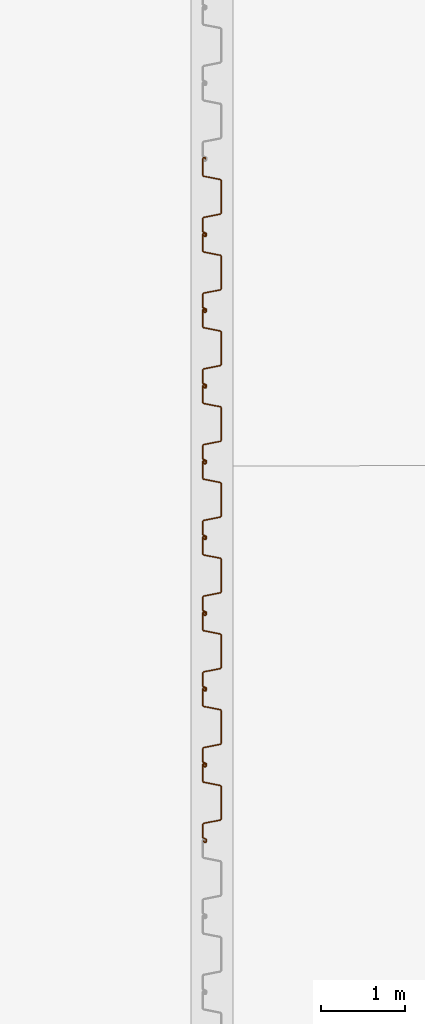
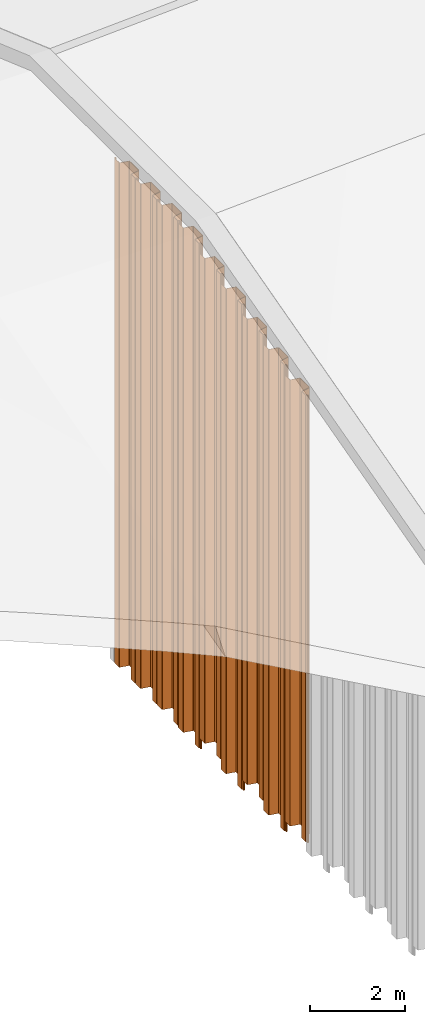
# One storey, part 26 of 32: 9 proxies.
"""IFC2X3 building model written with IfcOpenShell, lengths in millimetres."""

from ifc_helpers import new_model, entity, si_unit, converted_unit, derived_unit, direction, frame, frame_2d, origin, place, context, subcontext, project, spatial, polyline, circle_curve, parameter, trimmed, segment, composite_curve, outline, extrude, source, transform, mapped, type_object, type_shapes, element, save


model = new_model("IFC2X3")

# Units and contexts
model_context = context("Model", 3, precision=0.01, world=origin(), true_north=direction((6.12303176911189e-17, 1.0)))
body_context = subcontext(model_context, "Body", "Model", "MODEL_VIEW")
ifc_project = project(units=[si_unit("LENGTHUNIT", "METRE", prefix="MILLI"), si_unit("AREAUNIT", "SQUARE_METRE"), si_unit("VOLUMEUNIT", "CUBIC_METRE"), converted_unit("PLANEANGLEUNIT", "DEGREE", entity("IfcRatioMeasure", 0.0174532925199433), si_unit("PLANEANGLEUNIT", "RADIAN"), dimensions=[0, 0, 0, 0, 0, 0, 0]), si_unit("MASSUNIT", "GRAM", prefix="KILO"), derived_unit("MASSDENSITYUNIT", [(si_unit("MASSUNIT", "GRAM", prefix="KILO"), 1), (si_unit("LENGTHUNIT", "METRE"), -3)]), si_unit("TIMEUNIT", "SECOND"), si_unit("FREQUENCYUNIT", "HERTZ"), si_unit("THERMODYNAMICTEMPERATUREUNIT", "DEGREE_CELSIUS"), derived_unit("THERMALTRANSMITTANCEUNIT", [(si_unit("MASSUNIT", "GRAM", prefix="KILO"), 1), (si_unit("THERMODYNAMICTEMPERATUREUNIT", "KELVIN"), -1), (si_unit("TIMEUNIT", "SECOND"), -3)]), derived_unit("VOLUMETRICFLOWRATEUNIT", [(si_unit("LENGTHUNIT", "METRE"), 3), (si_unit("TIMEUNIT", "SECOND"), -1)]), si_unit("ELECTRICCURRENTUNIT", "AMPERE"), si_unit("ELECTRICVOLTAGEUNIT", "VOLT"), si_unit("POWERUNIT", "WATT"), si_unit("FORCEUNIT", "NEWTON", prefix="KILO"), si_unit("ILLUMINANCEUNIT", "LUX"), si_unit("LUMINOUSFLUXUNIT", "LUMEN"), si_unit("LUMINOUSINTENSITYUNIT", "CANDELA"), derived_unit("USERDEFINED", [(si_unit("MASSUNIT", "GRAM", prefix="KILO"), -1), (si_unit("LENGTHUNIT", "METRE"), -2), (si_unit("TIMEUNIT", "SECOND"), 3), (si_unit("LUMINOUSFLUXUNIT", "LUMEN"), 1)]), derived_unit("LINEARVELOCITYUNIT", [(si_unit("LENGTHUNIT", "METRE"), 1), (si_unit("TIMEUNIT", "SECOND"), -1)]), si_unit("PRESSUREUNIT", "PASCAL"), derived_unit("USERDEFINED", [(si_unit("LENGTHUNIT", "METRE"), -2), (si_unit("MASSUNIT", "GRAM", prefix="KILO"), 1), (si_unit("TIMEUNIT", "SECOND"), -2)])], contexts=[model_context])

# Site, building, storey
site_placement = place(None, origin())
site = spatial("IfcSite", under=ifc_project, at=site_placement, Name="Default", CompositionType="ELEMENT")
building_placement = place(site_placement, origin())
building = spatial("IfcBuilding", under=site, at=building_placement, CompositionType="ELEMENT")
storey_placement = place(building_placement, origin())
storey = spatial("IfcBuildingStorey", under=building, at=storey_placement, Name="矢板", CompositionType="ELEMENT", Elevation=0.0)

# Proxies
building_element_proxy_type_1 = type_object("IfcBuildingElementProxyType", Name="鋼矢板10H型", PredefinedType="NOTDEFINED")
shared_shape_1 = source(origin(), body_context, "Body", "SweptSolid", [
    extrude(outline(composite_curve([segment(trimmed(circle_curve(frame_2d((85.3662976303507, 306.644432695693), x_axis=(0.422618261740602, 0.906307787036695)), 13.885714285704), [parameter(24.9999999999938)], [parameter(90.0000000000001)], True, "PARAMETER"), True, "CONTINUOUS"), segment(polyline([(72.7815666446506, 312.512789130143), (9.8129512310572, 177.476157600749)]), True, "CONTINUOUS"), segment(trimmed(circle_curve(frame_2d((29.3891994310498, 168.347603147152), x_axis=(0.422618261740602, 0.906307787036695)), 21.6), [parameter(90.0000000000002)], [parameter(168.69006752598)], True, "PARAMETER"), True, "CONTINUOUS"), segment(polyline([(16.598697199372, 150.941769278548), (175.329723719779, 34.2998683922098)]), True, "CONTINUOUS"), segment(trimmed(circle_curve(frame_2d((168.93447260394, 25.596951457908), x_axis=(0.422618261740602, 0.906307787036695)), 10.7999999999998), [parameter(270.0)], [parameter(348.690067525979)], True, "PARAMETER"), False, "CONTINUOUS"), segment(polyline([(178.722596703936, 21.0326742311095), (18.2974003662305, -323.000269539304)]), True, "CONTINUOUS"), segment(trimmed(circle_curve(frame_2d((8.50927626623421, -318.435992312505), x_axis=(0.422618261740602, 0.906307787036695)), 10.8), [parameter(191.30993247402)], [parameter(269.999999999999)], True, "PARAMETER"), False, "CONTINUOUS"), segment(polyline([(5.95324328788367, -328.929166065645), (-185.429973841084, -282.310113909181)]), True, "CONTINUOUS"), segment(trimmed(circle_curve(frame_2d((-190.542039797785, -303.296461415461), x_axis=(0.422618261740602, 0.906307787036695)), 21.6000000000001), [parameter(11.3099324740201)], [parameter(90.0000000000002)], True, "PARAMETER"), True, "CONTINUOUS"), segment(polyline([(-210.118287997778, -294.167906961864), (-290.330886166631, -466.184378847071)]), True, "CONTINUOUS"), segment(trimmed(circle_curve(frame_2d((-270.754637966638, -475.312933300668), x_axis=(0.422618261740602, 0.906307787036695)), 21.6), [parameter(90.0000000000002)], [parameter(269.999999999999)], True, "PARAMETER"), True, "CONTINUOUS"), segment(polyline([(-251.178389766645, -484.441487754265), (-249.065298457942, -479.909948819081)]), True, "CONTINUOUS"), segment(polyline([(-249.065298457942, -479.909948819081), (-258.853422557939, -475.345671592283)]), True, "CONTINUOUS"), segment(polyline([(-258.853422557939, -475.345671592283), (-260.966513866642, -479.877210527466)]), True, "CONTINUOUS"), segment(trimmed(circle_curve(frame_2d((-270.754637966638, -475.312933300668), x_axis=(0.422618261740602, 0.906307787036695)), 10.8), [parameter(90.0000000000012)], [parameter(270.0)], True, "PARAMETER"), False, "CONTINUOUS"), segment(polyline([(-280.542762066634, -470.748656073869), (-200.330163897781, -298.732184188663)]), True, "CONTINUOUS"), segment(trimmed(circle_curve(frame_2d((-190.542039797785, -303.296461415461), x_axis=(0.422618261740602, 0.906307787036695)), 10.8), [parameter(11.3099324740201)], [parameter(89.9999999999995)], True, "PARAMETER"), False, "CONTINUOUS"), segment(polyline([(-187.986006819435, -292.803287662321), (3.39721030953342, -339.422339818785)]), True, "CONTINUOUS"), segment(trimmed(circle_curve(frame_2d((8.50927626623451, -318.435992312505), x_axis=(0.422618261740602, 0.906307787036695)), 21.6), [parameter(191.30993247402)], [parameter(270.0)], True, "PARAMETER"), True, "CONTINUOUS"), segment(polyline([(28.0855244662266, -327.564546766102), (188.510720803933, 16.4683970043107)]), True, "CONTINUOUS"), segment(trimmed(circle_curve(frame_2d((168.93447260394, 25.5969514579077), x_axis=(0.422618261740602, 0.906307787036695)), 21.6), [parameter(270.0)], [parameter(348.69006752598)], True, "PARAMETER"), True, "CONTINUOUS"), segment(polyline([(181.724974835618, 43.0027853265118), (22.9939483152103, 159.644686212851)]), True, "CONTINUOUS"), segment(trimmed(circle_curve(frame_2d((29.3891994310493, 168.347603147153), x_axis=(0.422618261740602, 0.906307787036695)), 10.7999999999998), [parameter(89.9999999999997)], [parameter(168.690067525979)], True, "PARAMETER"), False, "CONTINUOUS"), segment(polyline([(19.6010753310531, 172.911880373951), (82.5696907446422, 307.948511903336)]), True, "CONTINUOUS"), segment(trimmed(circle_curve(frame_2d((85.3662976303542, 306.64443269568), x_axis=(0.422618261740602, 0.906307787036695)), 3.08571428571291), [parameter(25.0000000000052)], [parameter(90.0000000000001)], True, "PARAMETER"), False, "CONTINUOUS"), segment(polyline([(85.3662976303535, 309.730146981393), (122.220231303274, 309.730146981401)]), True, "CONTINUOUS"), segment(trimmed(circle_curve(frame_2d((122.220231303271, 323.615861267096), x_axis=(0.422618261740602, 0.906307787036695)), 13.8857142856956), [parameter(205.000000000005)], [parameter(270.0)], True, "PARAMETER"), True, "CONTINUOUS"), segment(polyline([(134.804962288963, 317.747504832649), (141.079261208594, 331.202782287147)]), True, "CONTINUOUS"), segment(trimmed(circle_curve(frame_2d((121.503013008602, 340.331336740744), x_axis=(0.422618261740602, 0.906307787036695)), 21.6), [parameter(270.0)], [parameter(90.0000000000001)], True, "PARAMETER"), True, "CONTINUOUS"), segment(polyline([(101.926764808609, 349.459891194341), (99.8136734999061, 344.928352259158)]), True, "CONTINUOUS"), segment(polyline([(99.8136734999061, 344.928352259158), (109.601797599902, 340.364075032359)]), True, "CONTINUOUS"), segment(polyline([(109.601797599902, 340.364075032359), (111.714888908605, 344.895613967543)]), True, "CONTINUOUS"), segment(trimmed(circle_curve(frame_2d((121.503013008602, 340.331336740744), x_axis=(0.422618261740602, 0.906307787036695)), 10.8), [parameter(270.0)], [parameter(89.9999999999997)], True, "PARAMETER"), False, "CONTINUOUS"), segment(polyline([(131.291137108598, 335.767059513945), (125.01683818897, 322.311782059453)]), True, "CONTINUOUS"), segment(trimmed(circle_curve(frame_2d((122.220231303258, 323.615861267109), x_axis=(0.422618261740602, 0.906307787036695)), 3.08571428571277), [parameter(204.999999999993)], [parameter(270.0)], True, "PARAMETER"), False, "CONTINUOUS"), segment(polyline([(122.220231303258, 320.530146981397), (85.3662976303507, 320.530146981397)]), True, "CONTINUOUS")], self_intersect=False)), frame((95.205667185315, -48.8888888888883, -11500.0), z_axis=(0.0, 0.0, -1.0), x_axis=(0.4226182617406, 0.906307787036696, 0.0)), (0.0, 0.0, -1.0), 11500.0),
])
type_shapes(building_element_proxy_type_1, [shared_shape_1])
proxy_placement = place(storey_placement, frame((148500.0, -3349.0, 13688.0), z_axis=(0.0, 0.0, 1.0), x_axis=(0.0, -1.0, 0.0)))
element("IfcBuildingElementProxy", 1, at=proxy_placement, inside=storey, type_object=building_element_proxy_type_1, Name="鋼矢板10H型:鋼矢板10H型", ObjectType="鋼矢板10H型:鋼矢板10H型", context=body_context, shape_type="MappedRepresentation", body=[
    mapped(shared_shape_1, transform((0.0, 0.0, 0.0), scale=1.0)),
])
building_element_proxy_type_2 = type_object("IfcBuildingElementProxyType", Name="鋼矢板10H型", PredefinedType="NOTDEFINED")
shared_shape_2 = source(origin(), body_context, "Body", "SweptSolid", [
    extrude(outline(composite_curve([segment(trimmed(circle_curve(frame_2d((85.3662976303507, 306.644432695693), x_axis=(0.422618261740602, 0.906307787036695)), 13.885714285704), [parameter(24.9999999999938)], [parameter(90.0000000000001)], True, "PARAMETER"), True, "CONTINUOUS"), segment(polyline([(72.7815666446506, 312.512789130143), (9.8129512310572, 177.476157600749)]), True, "CONTINUOUS"), segment(trimmed(circle_curve(frame_2d((29.3891994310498, 168.347603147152), x_axis=(0.422618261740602, 0.906307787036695)), 21.6), [parameter(90.0000000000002)], [parameter(168.69006752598)], True, "PARAMETER"), True, "CONTINUOUS"), segment(polyline([(16.598697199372, 150.941769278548), (175.329723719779, 34.2998683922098)]), True, "CONTINUOUS"), segment(trimmed(circle_curve(frame_2d((168.93447260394, 25.596951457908), x_axis=(0.422618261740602, 0.906307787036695)), 10.7999999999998), [parameter(270.0)], [parameter(348.690067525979)], True, "PARAMETER"), False, "CONTINUOUS"), segment(polyline([(178.722596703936, 21.0326742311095), (18.2974003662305, -323.000269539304)]), True, "CONTINUOUS"), segment(trimmed(circle_curve(frame_2d((8.50927626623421, -318.435992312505), x_axis=(0.422618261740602, 0.906307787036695)), 10.8), [parameter(191.30993247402)], [parameter(269.999999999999)], True, "PARAMETER"), False, "CONTINUOUS"), segment(polyline([(5.95324328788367, -328.929166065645), (-185.429973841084, -282.310113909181)]), True, "CONTINUOUS"), segment(trimmed(circle_curve(frame_2d((-190.542039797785, -303.296461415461), x_axis=(0.422618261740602, 0.906307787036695)), 21.6000000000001), [parameter(11.3099324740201)], [parameter(90.0000000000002)], True, "PARAMETER"), True, "CONTINUOUS"), segment(polyline([(-210.118287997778, -294.167906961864), (-290.330886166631, -466.184378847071)]), True, "CONTINUOUS"), segment(trimmed(circle_curve(frame_2d((-270.754637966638, -475.312933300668), x_axis=(0.422618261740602, 0.906307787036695)), 21.6), [parameter(90.0000000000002)], [parameter(269.999999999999)], True, "PARAMETER"), True, "CONTINUOUS"), segment(polyline([(-251.178389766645, -484.441487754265), (-249.065298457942, -479.909948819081)]), True, "CONTINUOUS"), segment(polyline([(-249.065298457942, -479.909948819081), (-258.853422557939, -475.345671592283)]), True, "CONTINUOUS"), segment(polyline([(-258.853422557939, -475.345671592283), (-260.966513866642, -479.877210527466)]), True, "CONTINUOUS"), segment(trimmed(circle_curve(frame_2d((-270.754637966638, -475.312933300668), x_axis=(0.422618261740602, 0.906307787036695)), 10.8), [parameter(90.0000000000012)], [parameter(270.0)], True, "PARAMETER"), False, "CONTINUOUS"), segment(polyline([(-280.542762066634, -470.748656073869), (-200.330163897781, -298.732184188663)]), True, "CONTINUOUS"), segment(trimmed(circle_curve(frame_2d((-190.542039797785, -303.296461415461), x_axis=(0.422618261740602, 0.906307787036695)), 10.8), [parameter(11.3099324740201)], [parameter(89.9999999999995)], True, "PARAMETER"), False, "CONTINUOUS"), segment(polyline([(-187.986006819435, -292.803287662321), (3.39721030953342, -339.422339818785)]), True, "CONTINUOUS"), segment(trimmed(circle_curve(frame_2d((8.50927626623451, -318.435992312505), x_axis=(0.422618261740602, 0.906307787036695)), 21.6), [parameter(191.30993247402)], [parameter(270.0)], True, "PARAMETER"), True, "CONTINUOUS"), segment(polyline([(28.0855244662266, -327.564546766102), (188.510720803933, 16.4683970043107)]), True, "CONTINUOUS"), segment(trimmed(circle_curve(frame_2d((168.93447260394, 25.5969514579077), x_axis=(0.422618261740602, 0.906307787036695)), 21.6), [parameter(270.0)], [parameter(348.69006752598)], True, "PARAMETER"), True, "CONTINUOUS"), segment(polyline([(181.724974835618, 43.0027853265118), (22.9939483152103, 159.644686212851)]), True, "CONTINUOUS"), segment(trimmed(circle_curve(frame_2d((29.3891994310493, 168.347603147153), x_axis=(0.422618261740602, 0.906307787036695)), 10.7999999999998), [parameter(89.9999999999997)], [parameter(168.690067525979)], True, "PARAMETER"), False, "CONTINUOUS"), segment(polyline([(19.6010753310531, 172.911880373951), (82.5696907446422, 307.948511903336)]), True, "CONTINUOUS"), segment(trimmed(circle_curve(frame_2d((85.3662976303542, 306.64443269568), x_axis=(0.422618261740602, 0.906307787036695)), 3.08571428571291), [parameter(25.0000000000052)], [parameter(90.0000000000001)], True, "PARAMETER"), False, "CONTINUOUS"), segment(polyline([(85.3662976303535, 309.730146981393), (122.220231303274, 309.730146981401)]), True, "CONTINUOUS"), segment(trimmed(circle_curve(frame_2d((122.220231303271, 323.615861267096), x_axis=(0.422618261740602, 0.906307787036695)), 13.8857142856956), [parameter(205.000000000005)], [parameter(270.0)], True, "PARAMETER"), True, "CONTINUOUS"), segment(polyline([(134.804962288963, 317.747504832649), (141.079261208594, 331.202782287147)]), True, "CONTINUOUS"), segment(trimmed(circle_curve(frame_2d((121.503013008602, 340.331336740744), x_axis=(0.422618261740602, 0.906307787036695)), 21.6), [parameter(270.0)], [parameter(90.0000000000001)], True, "PARAMETER"), True, "CONTINUOUS"), segment(polyline([(101.926764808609, 349.459891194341), (99.8136734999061, 344.928352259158)]), True, "CONTINUOUS"), segment(polyline([(99.8136734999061, 344.928352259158), (109.601797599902, 340.364075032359)]), True, "CONTINUOUS"), segment(polyline([(109.601797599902, 340.364075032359), (111.714888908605, 344.895613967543)]), True, "CONTINUOUS"), segment(trimmed(circle_curve(frame_2d((121.503013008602, 340.331336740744), x_axis=(0.422618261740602, 0.906307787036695)), 10.8), [parameter(270.0)], [parameter(89.9999999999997)], True, "PARAMETER"), False, "CONTINUOUS"), segment(polyline([(131.291137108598, 335.767059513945), (125.01683818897, 322.311782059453)]), True, "CONTINUOUS"), segment(trimmed(circle_curve(frame_2d((122.220231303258, 323.615861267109), x_axis=(0.422618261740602, 0.906307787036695)), 3.08571428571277), [parameter(204.999999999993)], [parameter(270.0)], True, "PARAMETER"), False, "CONTINUOUS"), segment(polyline([(122.220231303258, 320.530146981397), (85.3662976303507, 320.530146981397)]), True, "CONTINUOUS")], self_intersect=False)), frame((95.205667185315, -48.8888888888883, -12000.0), z_axis=(0.0, 0.0, -1.0), x_axis=(0.4226182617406, 0.906307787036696, 0.0)), (0.0, 0.0, -1.0), 12000.0),
])
type_shapes(building_element_proxy_type_2, [shared_shape_2])
for number, where, z_axis, x_axis in (
    (2, (148500.0, -1549.0, 14162.0), (0.0, 0.0, 1.0), (0.0, -1.0, 0.0)),
    (3, (148500.0, -2449.0, 13925.0), (0.0, 0.0, 1.0), (0.0, -1.0, 0.0)),
):
    element("IfcBuildingElementProxy", number, at=place(storey_placement, frame(where, z_axis=z_axis, x_axis=x_axis)), inside=storey, type_object=building_element_proxy_type_2, Name="鋼矢板10H型:鋼矢板10H型", ObjectType="鋼矢板10H型:鋼矢板10H型", context=body_context, shape_type="MappedRepresentation", body=[
        mapped(shared_shape_2, transform((0.0, 0.0, 0.0), scale=1.0)),
    ])
building_element_proxy_type_3 = type_object("IfcBuildingElementProxyType", Name="鋼矢板10H型", PredefinedType="NOTDEFINED")
shared_shape_3 = source(origin(), body_context, "Body", "SweptSolid", [
    extrude(outline(composite_curve([segment(trimmed(circle_curve(frame_2d((85.3662976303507, 306.644432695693), x_axis=(0.422618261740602, 0.906307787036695)), 13.885714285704), [parameter(24.9999999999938)], [parameter(90.0000000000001)], True, "PARAMETER"), True, "CONTINUOUS"), segment(polyline([(72.7815666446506, 312.512789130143), (9.8129512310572, 177.476157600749)]), True, "CONTINUOUS"), segment(trimmed(circle_curve(frame_2d((29.3891994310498, 168.347603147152), x_axis=(0.422618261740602, 0.906307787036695)), 21.6), [parameter(90.0000000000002)], [parameter(168.69006752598)], True, "PARAMETER"), True, "CONTINUOUS"), segment(polyline([(16.598697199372, 150.941769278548), (175.329723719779, 34.2998683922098)]), True, "CONTINUOUS"), segment(trimmed(circle_curve(frame_2d((168.93447260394, 25.596951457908), x_axis=(0.422618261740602, 0.906307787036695)), 10.7999999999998), [parameter(270.0)], [parameter(348.690067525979)], True, "PARAMETER"), False, "CONTINUOUS"), segment(polyline([(178.722596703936, 21.0326742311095), (18.2974003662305, -323.000269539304)]), True, "CONTINUOUS"), segment(trimmed(circle_curve(frame_2d((8.50927626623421, -318.435992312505), x_axis=(0.422618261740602, 0.906307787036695)), 10.8), [parameter(191.30993247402)], [parameter(269.999999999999)], True, "PARAMETER"), False, "CONTINUOUS"), segment(polyline([(5.95324328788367, -328.929166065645), (-185.429973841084, -282.310113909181)]), True, "CONTINUOUS"), segment(trimmed(circle_curve(frame_2d((-190.542039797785, -303.296461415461), x_axis=(0.422618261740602, 0.906307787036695)), 21.6000000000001), [parameter(11.3099324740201)], [parameter(90.0000000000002)], True, "PARAMETER"), True, "CONTINUOUS"), segment(polyline([(-210.118287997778, -294.167906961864), (-290.330886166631, -466.184378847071)]), True, "CONTINUOUS"), segment(trimmed(circle_curve(frame_2d((-270.754637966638, -475.312933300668), x_axis=(0.422618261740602, 0.906307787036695)), 21.6), [parameter(90.0000000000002)], [parameter(269.999999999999)], True, "PARAMETER"), True, "CONTINUOUS"), segment(polyline([(-251.178389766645, -484.441487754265), (-249.065298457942, -479.909948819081)]), True, "CONTINUOUS"), segment(polyline([(-249.065298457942, -479.909948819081), (-258.853422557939, -475.345671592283)]), True, "CONTINUOUS"), segment(polyline([(-258.853422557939, -475.345671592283), (-260.966513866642, -479.877210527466)]), True, "CONTINUOUS"), segment(trimmed(circle_curve(frame_2d((-270.754637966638, -475.312933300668), x_axis=(0.422618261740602, 0.906307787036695)), 10.8), [parameter(90.0000000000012)], [parameter(270.0)], True, "PARAMETER"), False, "CONTINUOUS"), segment(polyline([(-280.542762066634, -470.748656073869), (-200.330163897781, -298.732184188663)]), True, "CONTINUOUS"), segment(trimmed(circle_curve(frame_2d((-190.542039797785, -303.296461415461), x_axis=(0.422618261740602, 0.906307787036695)), 10.8), [parameter(11.3099324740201)], [parameter(89.9999999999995)], True, "PARAMETER"), False, "CONTINUOUS"), segment(polyline([(-187.986006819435, -292.803287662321), (3.39721030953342, -339.422339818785)]), True, "CONTINUOUS"), segment(trimmed(circle_curve(frame_2d((8.50927626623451, -318.435992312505), x_axis=(0.422618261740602, 0.906307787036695)), 21.6), [parameter(191.30993247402)], [parameter(270.0)], True, "PARAMETER"), True, "CONTINUOUS"), segment(polyline([(28.0855244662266, -327.564546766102), (188.510720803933, 16.4683970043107)]), True, "CONTINUOUS"), segment(trimmed(circle_curve(frame_2d((168.93447260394, 25.5969514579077), x_axis=(0.422618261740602, 0.906307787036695)), 21.6), [parameter(270.0)], [parameter(348.69006752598)], True, "PARAMETER"), True, "CONTINUOUS"), segment(polyline([(181.724974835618, 43.0027853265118), (22.9939483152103, 159.644686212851)]), True, "CONTINUOUS"), segment(trimmed(circle_curve(frame_2d((29.3891994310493, 168.347603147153), x_axis=(0.422618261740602, 0.906307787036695)), 10.7999999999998), [parameter(89.9999999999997)], [parameter(168.690067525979)], True, "PARAMETER"), False, "CONTINUOUS"), segment(polyline([(19.6010753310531, 172.911880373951), (82.5696907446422, 307.948511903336)]), True, "CONTINUOUS"), segment(trimmed(circle_curve(frame_2d((85.3662976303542, 306.64443269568), x_axis=(0.422618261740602, 0.906307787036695)), 3.08571428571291), [parameter(25.0000000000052)], [parameter(90.0000000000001)], True, "PARAMETER"), False, "CONTINUOUS"), segment(polyline([(85.3662976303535, 309.730146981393), (122.220231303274, 309.730146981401)]), True, "CONTINUOUS"), segment(trimmed(circle_curve(frame_2d((122.220231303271, 323.615861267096), x_axis=(0.422618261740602, 0.906307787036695)), 13.8857142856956), [parameter(205.000000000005)], [parameter(270.0)], True, "PARAMETER"), True, "CONTINUOUS"), segment(polyline([(134.804962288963, 317.747504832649), (141.079261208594, 331.202782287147)]), True, "CONTINUOUS"), segment(trimmed(circle_curve(frame_2d((121.503013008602, 340.331336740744), x_axis=(0.422618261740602, 0.906307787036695)), 21.6), [parameter(270.0)], [parameter(90.0000000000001)], True, "PARAMETER"), True, "CONTINUOUS"), segment(polyline([(101.926764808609, 349.459891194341), (99.8136734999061, 344.928352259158)]), True, "CONTINUOUS"), segment(polyline([(99.8136734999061, 344.928352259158), (109.601797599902, 340.364075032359)]), True, "CONTINUOUS"), segment(polyline([(109.601797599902, 340.364075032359), (111.714888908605, 344.895613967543)]), True, "CONTINUOUS"), segment(trimmed(circle_curve(frame_2d((121.503013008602, 340.331336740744), x_axis=(0.422618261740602, 0.906307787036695)), 10.8), [parameter(270.0)], [parameter(89.9999999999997)], True, "PARAMETER"), False, "CONTINUOUS"), segment(polyline([(131.291137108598, 335.767059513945), (125.01683818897, 322.311782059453)]), True, "CONTINUOUS"), segment(trimmed(circle_curve(frame_2d((122.220231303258, 323.615861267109), x_axis=(0.422618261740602, 0.906307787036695)), 3.08571428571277), [parameter(204.999999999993)], [parameter(270.0)], True, "PARAMETER"), False, "CONTINUOUS"), segment(polyline([(122.220231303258, 320.530146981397), (85.3662976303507, 320.530146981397)]), True, "CONTINUOUS")], self_intersect=False)), frame((95.205667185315, -48.8888888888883, -12500.0), z_axis=(0.0, 0.0, -1.0), x_axis=(0.4226182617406, 0.906307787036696, 0.0)), (0.0, 0.0, -1.0), 12500.0),
])
type_shapes(building_element_proxy_type_3, [shared_shape_3])
for number, where, z_axis, x_axis in (
    (4, (148500.0, 251.0, 14636.0), (0.0, 0.0, 1.0), (0.0, -1.0, 0.0)),
    (5, (148500.0, -649.0, 14399.0), (0.0, 0.0, 1.0), (0.0, -1.0, 0.0)),
):
    element("IfcBuildingElementProxy", number, at=place(storey_placement, frame(where, z_axis=z_axis, x_axis=x_axis)), inside=storey, type_object=building_element_proxy_type_3, Name="鋼矢板10H型:鋼矢板10H型", ObjectType="鋼矢板10H型:鋼矢板10H型", context=body_context, shape_type="MappedRepresentation", body=[
        mapped(shared_shape_3, transform((0.0, 0.0, 0.0), scale=1.0)),
    ])
building_element_proxy_type_4 = type_object("IfcBuildingElementProxyType", Name="鋼矢板10H型", PredefinedType="NOTDEFINED")
shared_shape_4 = source(origin(), body_context, "Body", "SweptSolid", [
    extrude(outline(composite_curve([segment(trimmed(circle_curve(frame_2d((85.3662976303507, 306.644432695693), x_axis=(0.422618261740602, 0.906307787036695)), 13.885714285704), [parameter(24.9999999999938)], [parameter(90.0000000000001)], True, "PARAMETER"), True, "CONTINUOUS"), segment(polyline([(72.7815666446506, 312.512789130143), (9.8129512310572, 177.476157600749)]), True, "CONTINUOUS"), segment(trimmed(circle_curve(frame_2d((29.3891994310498, 168.347603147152), x_axis=(0.422618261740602, 0.906307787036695)), 21.6), [parameter(90.0000000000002)], [parameter(168.69006752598)], True, "PARAMETER"), True, "CONTINUOUS"), segment(polyline([(16.598697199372, 150.941769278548), (175.329723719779, 34.2998683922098)]), True, "CONTINUOUS"), segment(trimmed(circle_curve(frame_2d((168.93447260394, 25.596951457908), x_axis=(0.422618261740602, 0.906307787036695)), 10.7999999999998), [parameter(270.0)], [parameter(348.690067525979)], True, "PARAMETER"), False, "CONTINUOUS"), segment(polyline([(178.722596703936, 21.0326742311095), (18.2974003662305, -323.000269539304)]), True, "CONTINUOUS"), segment(trimmed(circle_curve(frame_2d((8.50927626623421, -318.435992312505), x_axis=(0.422618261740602, 0.906307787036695)), 10.8), [parameter(191.30993247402)], [parameter(269.999999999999)], True, "PARAMETER"), False, "CONTINUOUS"), segment(polyline([(5.95324328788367, -328.929166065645), (-185.429973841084, -282.310113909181)]), True, "CONTINUOUS"), segment(trimmed(circle_curve(frame_2d((-190.542039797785, -303.296461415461), x_axis=(0.422618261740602, 0.906307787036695)), 21.6000000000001), [parameter(11.3099324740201)], [parameter(90.0000000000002)], True, "PARAMETER"), True, "CONTINUOUS"), segment(polyline([(-210.118287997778, -294.167906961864), (-290.330886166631, -466.184378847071)]), True, "CONTINUOUS"), segment(trimmed(circle_curve(frame_2d((-270.754637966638, -475.312933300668), x_axis=(0.422618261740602, 0.906307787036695)), 21.6), [parameter(90.0000000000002)], [parameter(269.999999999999)], True, "PARAMETER"), True, "CONTINUOUS"), segment(polyline([(-251.178389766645, -484.441487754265), (-249.065298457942, -479.909948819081)]), True, "CONTINUOUS"), segment(polyline([(-249.065298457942, -479.909948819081), (-258.853422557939, -475.345671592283)]), True, "CONTINUOUS"), segment(polyline([(-258.853422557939, -475.345671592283), (-260.966513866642, -479.877210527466)]), True, "CONTINUOUS"), segment(trimmed(circle_curve(frame_2d((-270.754637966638, -475.312933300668), x_axis=(0.422618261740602, 0.906307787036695)), 10.8), [parameter(90.0000000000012)], [parameter(270.0)], True, "PARAMETER"), False, "CONTINUOUS"), segment(polyline([(-280.542762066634, -470.748656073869), (-200.330163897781, -298.732184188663)]), True, "CONTINUOUS"), segment(trimmed(circle_curve(frame_2d((-190.542039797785, -303.296461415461), x_axis=(0.422618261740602, 0.906307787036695)), 10.8), [parameter(11.3099324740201)], [parameter(89.9999999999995)], True, "PARAMETER"), False, "CONTINUOUS"), segment(polyline([(-187.986006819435, -292.803287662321), (3.39721030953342, -339.422339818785)]), True, "CONTINUOUS"), segment(trimmed(circle_curve(frame_2d((8.50927626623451, -318.435992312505), x_axis=(0.422618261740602, 0.906307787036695)), 21.6), [parameter(191.30993247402)], [parameter(270.0)], True, "PARAMETER"), True, "CONTINUOUS"), segment(polyline([(28.0855244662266, -327.564546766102), (188.510720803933, 16.4683970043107)]), True, "CONTINUOUS"), segment(trimmed(circle_curve(frame_2d((168.93447260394, 25.5969514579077), x_axis=(0.422618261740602, 0.906307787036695)), 21.6), [parameter(270.0)], [parameter(348.69006752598)], True, "PARAMETER"), True, "CONTINUOUS"), segment(polyline([(181.724974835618, 43.0027853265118), (22.9939483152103, 159.644686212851)]), True, "CONTINUOUS"), segment(trimmed(circle_curve(frame_2d((29.3891994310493, 168.347603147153), x_axis=(0.422618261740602, 0.906307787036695)), 10.7999999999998), [parameter(89.9999999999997)], [parameter(168.690067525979)], True, "PARAMETER"), False, "CONTINUOUS"), segment(polyline([(19.6010753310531, 172.911880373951), (82.5696907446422, 307.948511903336)]), True, "CONTINUOUS"), segment(trimmed(circle_curve(frame_2d((85.3662976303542, 306.64443269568), x_axis=(0.422618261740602, 0.906307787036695)), 3.08571428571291), [parameter(25.0000000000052)], [parameter(90.0000000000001)], True, "PARAMETER"), False, "CONTINUOUS"), segment(polyline([(85.3662976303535, 309.730146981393), (122.220231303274, 309.730146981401)]), True, "CONTINUOUS"), segment(trimmed(circle_curve(frame_2d((122.220231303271, 323.615861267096), x_axis=(0.422618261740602, 0.906307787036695)), 13.8857142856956), [parameter(205.000000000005)], [parameter(270.0)], True, "PARAMETER"), True, "CONTINUOUS"), segment(polyline([(134.804962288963, 317.747504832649), (141.079261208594, 331.202782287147)]), True, "CONTINUOUS"), segment(trimmed(circle_curve(frame_2d((121.503013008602, 340.331336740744), x_axis=(0.422618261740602, 0.906307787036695)), 21.6), [parameter(270.0)], [parameter(90.0000000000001)], True, "PARAMETER"), True, "CONTINUOUS"), segment(polyline([(101.926764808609, 349.459891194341), (99.8136734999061, 344.928352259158)]), True, "CONTINUOUS"), segment(polyline([(99.8136734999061, 344.928352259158), (109.601797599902, 340.364075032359)]), True, "CONTINUOUS"), segment(polyline([(109.601797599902, 340.364075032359), (111.714888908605, 344.895613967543)]), True, "CONTINUOUS"), segment(trimmed(circle_curve(frame_2d((121.503013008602, 340.331336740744), x_axis=(0.422618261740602, 0.906307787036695)), 10.8), [parameter(270.0)], [parameter(89.9999999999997)], True, "PARAMETER"), False, "CONTINUOUS"), segment(polyline([(131.291137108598, 335.767059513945), (125.01683818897, 322.311782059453)]), True, "CONTINUOUS"), segment(trimmed(circle_curve(frame_2d((122.220231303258, 323.615861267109), x_axis=(0.422618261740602, 0.906307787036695)), 3.08571428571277), [parameter(204.999999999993)], [parameter(270.0)], True, "PARAMETER"), False, "CONTINUOUS"), segment(polyline([(122.220231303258, 320.530146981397), (85.3662976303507, 320.530146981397)]), True, "CONTINUOUS")], self_intersect=False)), frame((95.205667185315, -48.8888888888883, -13000.0), z_axis=(0.0, 0.0, -1.0), x_axis=(0.4226182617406, 0.906307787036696, 0.0)), (0.0, 0.0, -1.0), 13000.0),
])
type_shapes(building_element_proxy_type_4, [shared_shape_4])
for number, where, z_axis, x_axis in (
    (6, (148500.0, 3851.0, 14913.0), (0.0, 0.0, 1.0), (0.0, -1.0, 0.0)),
    (7, (148500.0, 2951.0, 14913.0), (0.0, 0.0, 1.0), (0.0, -1.0, 0.0)),
    (8, (148500.0, 2051.0, 14913.0), (0.0, 0.0, 1.0), (0.0, -1.0, 0.0)),
    (9, (148500.0, 1151.0, 14873.0), (0.0, 0.0, 1.0), (0.0, -1.0, 0.0)),
):
    element("IfcBuildingElementProxy", number, at=place(storey_placement, frame(where, z_axis=z_axis, x_axis=x_axis)), inside=storey, type_object=building_element_proxy_type_4, Name="鋼矢板10H型:鋼矢板10H型", ObjectType="鋼矢板10H型:鋼矢板10H型", context=body_context, shape_type="MappedRepresentation", body=[
        mapped(shared_shape_4, transform((0.0, 0.0, 0.0), scale=1.0)),
    ])

save(model, "model.ifc")
